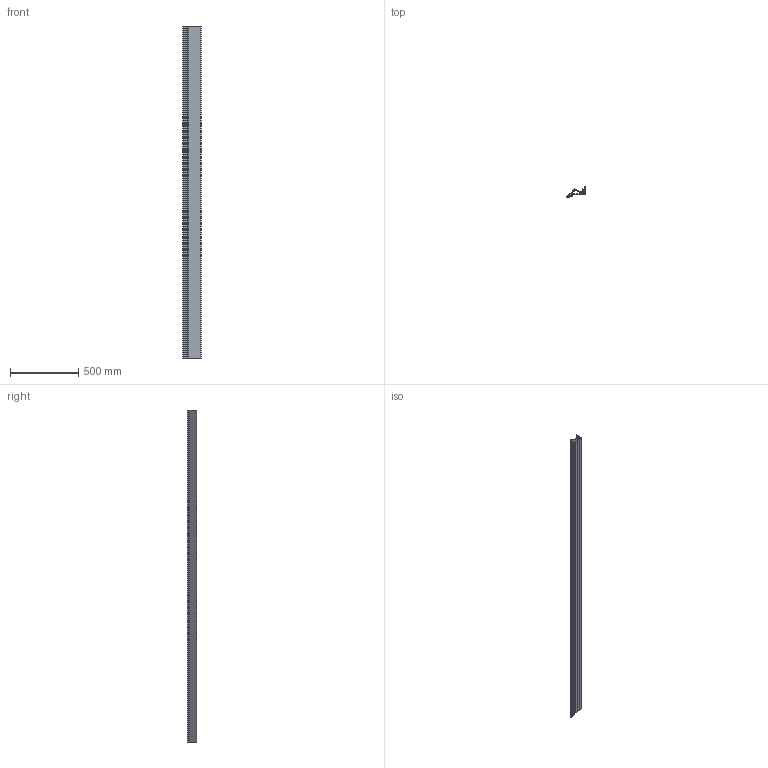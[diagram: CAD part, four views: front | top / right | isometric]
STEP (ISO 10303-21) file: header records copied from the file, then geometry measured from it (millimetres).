
FILE_DESCRIPTION (( 'STEP AP203' ), '1' );
FILE_NAME ('L09 Knife Edge Cove 96in Housing.STEP', '2023-06-28T21:42:13', ( '' ), ( '' ), 'SwSTEP 2.0', 'SolidWorks 2022', '' );
FILE_SCHEMA (( 'CONFIG_CONTROL_DESIGN' ));
Length unit declared in the file: inch
Products named in the file (1): L09 Knife Edge Cove 96in Housing
Bounding box: 132.7 x 72.84 x 2438.4 mm (x, y, z)
Volume: 2155736 mm3; surface area: 2342079.4 mm2
Topology: 1 solids, 1 shells, 239 faces, 711 edges, 474 vertices
Faces by surface type: cylinder 145, plane 94
Entity records: 8226 total; most frequent: DIRECTION 1481, CARTESIAN_POINT 1425, ORIENTED_EDGE 1422, EDGE_CURVE 711, AXIS2_PLACEMENT_3D 530, VERTEX_POINT 474, LINE 421, VECTOR 421
